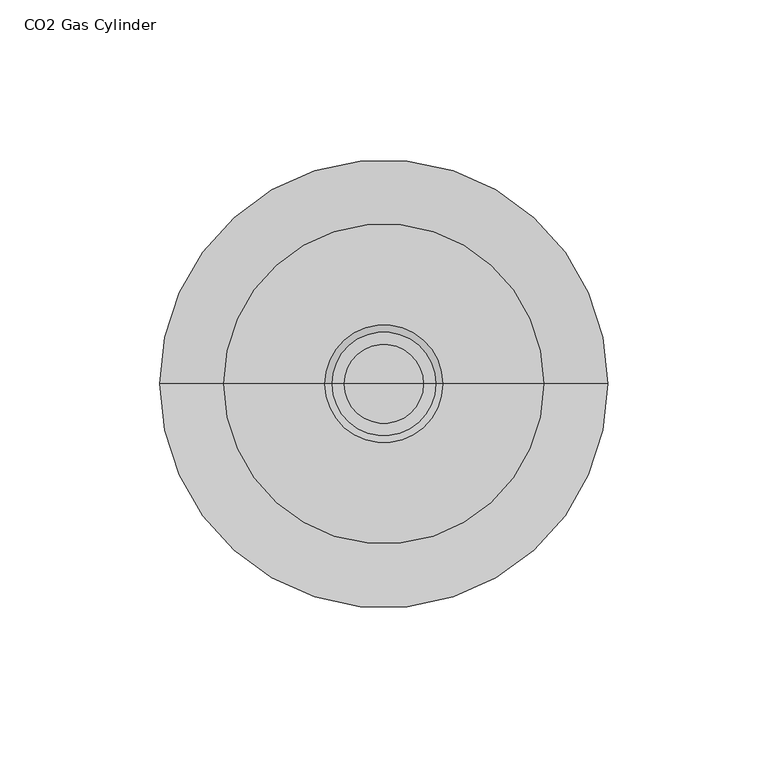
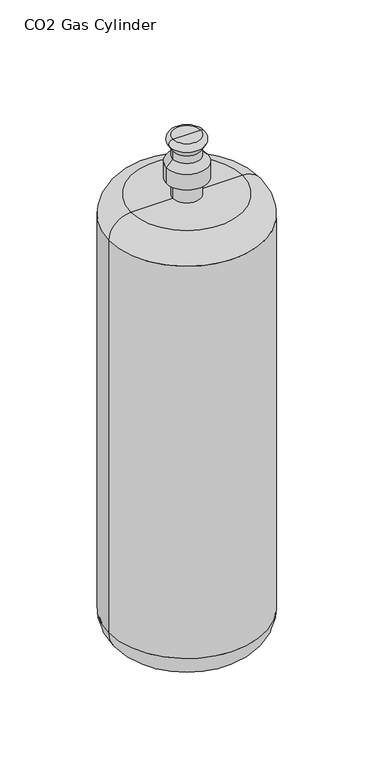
"""IFC4 building model written with IfcOpenShell, lengths in millimetres: flow terminal geometry, z_PlumFixt_Zenith_CO2 Gas Cylinder : CO2 Gas Cylinder."""

from ifc_helpers import new_model, si_unit, point, frame, origin, place, context, project, spatial, polyline, circle_curve, ellipse_curve, trimmed, source, transform, mapped, element, save
from ifc_brep_helpers import plane_surface, cylinder_surface, revolved_surface, advanced_brep


def co2_gas_cylinder_20234e14(model_context):
    return source(origin(), model_context, "Body", "AdvancedBrep", [
        advanced_brep(
        [(-69.0, -87.0, 25.0), (71.0, -87.0, 25.0), (71.0, -87.0, 397.75), (-69.0, -87.0, 397.75), (-44.0, -87.0, 0.0), (46.0, -87.0, 0.0), (1.0, -87.0, 0.0), (-11.3519145, -87.0, 474.0), (13.3519145, -87.0, 474.0), (1.0, -87.0, 474.0), (-14.7076551, -87.0, 468.1876868), (16.7076551, -87.0, 468.1876868), (-11.4254092, -87.0, 462.5026702), (13.4254092, -87.0, 462.5026702), (-11.4254092, -87.0, 455.1141476), (13.4254092, -87.0, 455.1141476), (-17.4080139, -87.0, 449.1315428), (19.4080139, -87.0, 449.1315428), (-17.4080139, -87.0, 434.1315428), (19.4080139, -87.0, 434.1315428), (-11.4254092, -87.0, 434.1315428), (13.4254092, -87.0, 434.1315428), (-11.4254092, -87.0, 417.75), (13.4254092, -87.0, 417.75), (-49.0, -87.0, 417.75), (51.0, -87.0, 417.75)],
        [
            (0, 1, circle_curve(frame((1.0, -87.0, 25.0), z_axis=(0.0, 0.0, 1.0), x_axis=(1.0, 0.0, 0.0)), 70.0)),
            (1, 2),
            (2, 3, circle_curve(frame((1.0, -87.0, 397.75), z_axis=(0.0, 0.0, -1.0), x_axis=(1.0, 0.0, 0.0)), 70.0)),
            (3, 0),
            (1, 0, circle_curve(frame((1.0, -87.0, 25.0), z_axis=(0.0, 0.0, 1.0), x_axis=(1.0, 0.0, 0.0)), 70.0)),
            (3, 2, circle_curve(frame((1.0, -87.0, 397.75), z_axis=(0.0, 0.0, -1.0), x_axis=(1.0, 0.0, 0.0)), 70.0)),
            (4, 5, circle_curve(frame((1.0, -87.0, 0.0), z_axis=(0.0, 0.0, 1.0), x_axis=(1.0, 0.0, 0.0)), 45.0)),
            (5, 1, circle_curve(frame((46.0, -87.0, 25.0), z_axis=(0.0, -1.0, 0.0), x_axis=(-1.0, 0.0, 0.0)), 25.0)),
            (0, 4, circle_curve(frame((-44.0, -87.0, 25.0), z_axis=(0.0, -1.0, 0.0), x_axis=(1.0, 0.0, 0.0)), 25.0)),
            (5, 4, circle_curve(frame((1.0, -87.0, 0.0), z_axis=(0.0, 0.0, 1.0), x_axis=(1.0, 0.0, 0.0)), 45.0)),
            (6, 5),
            (4, 6),
            (7, 8, circle_curve(frame((1.0, -87.0, 474.0), z_axis=(0.0, 0.0, 1.0), x_axis=(1.0, 0.0, 0.0)), 12.3519145)),
            (8, 9),
            (9, 7),
            (8, 7, circle_curve(frame((1.0, -87.0, 474.0), z_axis=(0.0, 0.0, 1.0), x_axis=(1.0, 0.0, 0.0)), 12.3519145)),
            (10, 11, circle_curve(frame((1.0, -87.0, 468.1876868), z_axis=(0.0, 0.0, 1.0), x_axis=(1.0, 0.0, 0.0)), 15.7076551)),
            (11, 8, circle_curve(frame((13.3519145, -87.0, 470.1251246), z_axis=(0.0, -1.0, 0.0), x_axis=(-1.0, 0.0, 0.0)), 3.8748754)),
            (7, 10, circle_curve(frame((-11.3519145, -87.0, 470.1251246), z_axis=(0.0, -1.0, 0.0), x_axis=(1.0, 0.0, 0.0)), 3.8748754)),
            (11, 10, circle_curve(frame((1.0, -87.0, 468.1876868), z_axis=(0.0, 0.0, 1.0), x_axis=(1.0, 0.0, 0.0)), 15.7076551)),
            (12, 13, circle_curve(frame((1.0, -87.0, 462.5026702), z_axis=(0.0, 0.0, 1.0), x_axis=(1.0, 0.0, 0.0)), 12.4254092)),
            (13, 11),
            (10, 12),
            (13, 12, circle_curve(frame((1.0, -87.0, 462.5026702), z_axis=(0.0, 0.0, 1.0), x_axis=(1.0, 0.0, 0.0)), 12.4254092)),
            (14, 15, circle_curve(frame((1.0, -87.0, 455.1141476), z_axis=(0.0, 0.0, 1.0), x_axis=(1.0, 0.0, 0.0)), 12.4254092)),
            (15, 13),
            (12, 14),
            (15, 14, circle_curve(frame((1.0, -87.0, 455.1141476), z_axis=(0.0, 0.0, 1.0), x_axis=(1.0, 0.0, 0.0)), 12.4254092)),
            (16, 17, circle_curve(frame((1.0, -87.0, 449.1315428), z_axis=(0.0, 0.0, 1.0), x_axis=(1.0, 0.0, 0.0)), 18.4080139)),
            (17, 15),
            (14, 16),
            (17, 16, circle_curve(frame((1.0, -87.0, 449.1315428), z_axis=(0.0, 0.0, 1.0), x_axis=(1.0, 0.0, 0.0)), 18.4080139)),
            (18, 19, circle_curve(frame((1.0, -87.0, 434.1315428), z_axis=(0.0, 0.0, 1.0), x_axis=(1.0, 0.0, 0.0)), 18.4080139)),
            (19, 17),
            (16, 18),
            (19, 18, circle_curve(frame((1.0, -87.0, 434.1315428), z_axis=(0.0, 0.0, 1.0), x_axis=(1.0, 0.0, 0.0)), 18.4080139)),
            (20, 21, circle_curve(frame((1.0, -87.0, 434.1315428), z_axis=(0.0, 0.0, 1.0), x_axis=(1.0, 0.0, 0.0)), 12.4254092)),
            (21, 19),
            (18, 20),
            (21, 20, circle_curve(frame((1.0, -87.0, 434.1315428), z_axis=(0.0, 0.0, 1.0), x_axis=(1.0, 0.0, 0.0)), 12.4254092)),
            (22, 23, circle_curve(frame((1.0, -87.0, 417.75), z_axis=(0.0, 0.0, 1.0), x_axis=(1.0, 0.0, 0.0)), 12.4254092)),
            (23, 21),
            (20, 22),
            (23, 22, circle_curve(frame((1.0, -87.0, 417.75), z_axis=(0.0, 0.0, 1.0), x_axis=(1.0, 0.0, 0.0)), 12.4254092)),
            (24, 25, circle_curve(frame((1.0, -87.0, 417.75), z_axis=(0.0, 0.0, 1.0), x_axis=(1.0, 0.0, 0.0)), 50.0)),
            (25, 23),
            (22, 24),
            (25, 24, circle_curve(frame((1.0, -87.0, 417.75), z_axis=(0.0, 0.0, 1.0), x_axis=(1.0, 0.0, 0.0)), 50.0)),
            (2, 25, circle_curve(frame((51.0, -87.0, 397.75), z_axis=(0.0, -1.0, 0.0), x_axis=(-1.0, 0.0, 0.0)), 20.0)),
            (24, 3, circle_curve(frame((-49.0, -87.0, 397.75), z_axis=(0.0, -1.0, 0.0), x_axis=(1.0, 0.0, 0.0)), 20.0)),
        ],
        [
            cylinder_surface(frame((1.0, -87.0, 484.0), z_axis=(0.0, 0.0, -1.0), x_axis=(1.0, 0.0, 0.0)), 70.0),
            revolved_surface(trimmed(ellipse_curve(frame((46.0, -87.0, 25.0), z_axis=(0.0, 1.0, 0.0), x_axis=(-1.0, 0.0, 0.0)), 25.0, 25.0), [point((71.0, -87.0, 25.0))], [point((46.0, -87.0, 0.0))], True, "CARTESIAN"), (1.0, -87.0, 484.0), (0.0, 0.0, -1.0)),
            plane_surface(frame((1.0, -87.0, 0.0), z_axis=(0.0, 0.0, -1.0), x_axis=(1.0, 0.0, 0.0))),
            plane_surface(frame((1.0, -87.0, 474.0), z_axis=(0.0, 0.0, 1.0), x_axis=(1.0, 0.0, 0.0))),
            revolved_surface(trimmed(ellipse_curve(frame((13.3519145, -87.0, 470.1251246), z_axis=(0.0, 1.0, 0.0), x_axis=(-1.0, 0.0, 0.0)), 3.8748754, 3.8748754), [point((13.3519145, -87.0, 474.0))], [point((16.7076551, -87.0, 468.1876868))], True, "CARTESIAN"), (1.0, -87.0, 484.0), (0.0, 0.0, -1.0)),
            revolved_surface(polyline([(16.7076551, -87.0, 468.1876868), (13.4254092, -87.0, 462.5026702)]), (1.0, -87.0, 484.0), (0.0, 0.0, -1.0)),
            cylinder_surface(frame((1.0, -87.0, 484.0), z_axis=(0.0, 0.0, -1.0), x_axis=(1.0, 0.0, 0.0)), 12.4254092),
            revolved_surface(polyline([(13.4254092, -87.0, 455.1141476), (19.4080139, -87.0, 449.1315428)]), (1.0, -87.0, 484.0), (0.0, 0.0, -1.0)),
            cylinder_surface(frame((1.0, -87.0, 484.0), z_axis=(0.0, 0.0, -1.0), x_axis=(1.0, 0.0, 0.0)), 18.4080139),
            plane_surface(frame((1.0, -87.0, 434.1315428), z_axis=(0.0, 0.0, -1.0), x_axis=(1.0, 0.0, 0.0))),
            plane_surface(frame((1.0, -87.0, 417.75), z_axis=(0.0, 0.0, 1.0), x_axis=(1.0, 0.0, 0.0))),
            revolved_surface(trimmed(ellipse_curve(frame((51.0, -87.0, 397.75), z_axis=(0.0, 1.0, 0.0), x_axis=(-1.0, 0.0, 0.0)), 20.0, 20.0), [point((51.0, -87.0, 417.75))], [point((71.0, -87.0, 397.75))], True, "CARTESIAN"), (1.0, -87.0, 484.0), (0.0, 0.0, -1.0)),
        ],
        [
            (0, [[1, 2, 3, 4]]),
            (0, [[5, -4, 6, -2]]),
            (1, [[7, 8, -1, 9]]),
            (1, [[10, -9, -5, -8]]),
            (2, [[11, -7, 12]]),
            (2, [[-12, -10, -11]]),
            (3, [[13, 14, 15]]),
            (3, [[16, -15, -14]]),
            (4, [[17, 18, -13, 19]]),
            (4, [[20, -19, -16, -18]]),
            (5, [[21, 22, -17, 23]]),
            (5, [[24, -23, -20, -22]]),
            (6, [[25, 26, -21, 27]]),
            (6, [[28, -27, -24, -26]]),
            (7, [[29, 30, -25, 31]]),
            (7, [[32, -31, -28, -30]]),
            (8, [[33, 34, -29, 35]]),
            (8, [[36, -35, -32, -34]]),
            (9, [[37, 38, -33, 39]]),
            (9, [[40, -39, -36, -38]]),
            (6, [[41, 42, -37, 43]]),
            (6, [[44, -43, -40, -42]]),
            (10, [[45, 46, -41, 47]]),
            (10, [[48, -47, -44, -46]]),
            (11, [[-3, 49, -45, 50]]),
            (11, [[-6, -50, -48, -49]]),
        ],
    ),
    ])


if __name__ == "__main__":
    model = new_model("IFC4")
    model_context = context("Model", 3, world=origin())
    ifc_project = project(units=[si_unit("LENGTHUNIT", "METRE", prefix="MILLI")], contexts=[model_context])
    site = spatial("IfcSite", under=ifc_project)
    building = spatial("IfcBuilding", under=site)
    placement = place(None, origin())
    co2_gas_cylinder_shape = co2_gas_cylinder_20234e14(model_context)
    element("IfcFlowTerminal", 1, ObjectType="z_PlumFixt_Zenith_CO2 Gas Cylinder : CO2 Gas Cylinder", at=placement, inside=building, context=model_context, shape_type="MappedRepresentation", body=[
        mapped(co2_gas_cylinder_shape, transform((0.0, 0.0, 0.0), x_axis=(1.0, 0.0, 0.0), y_axis=(0.0, 1.0, 0.0), z_axis=(0.0, 0.0, 1.0))),
    ])
    save(model, "model.ifc")
